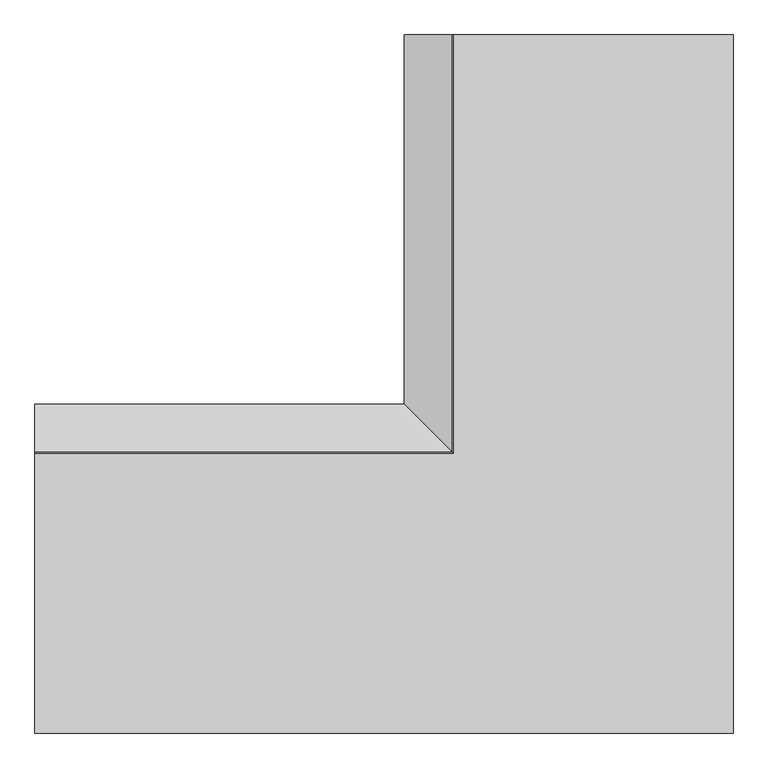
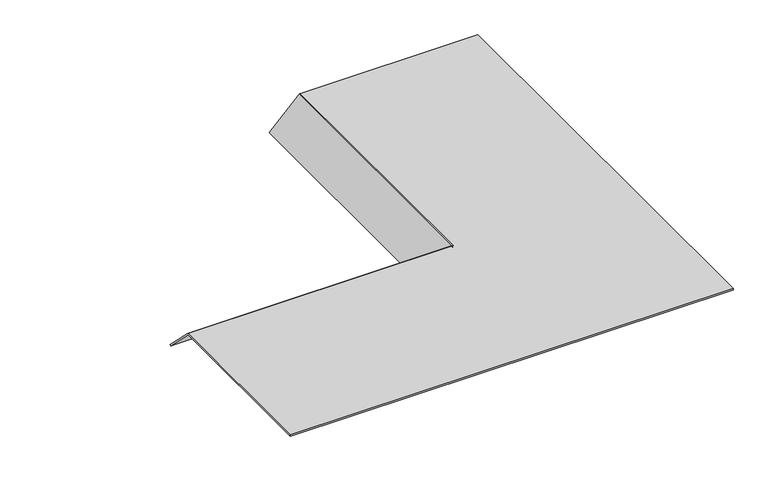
"""IFC4 building model written with IfcOpenShell, lengths in millimetres: cable carrier fitting geometry, Electrical_Installation_Hager_Inner-And-Outer-Corner : Electrical_Installation_Hager_Inner-And-Outer-Corner."""

from ifc_helpers import new_model, si_unit, frame, origin, place, context, project, spatial, polyline, circle_curve, ellipse_curve, outline, extrude, source, transform, mapped, element, save
from ifc_brep_helpers import plane_surface, cylinder_surface, revolved_surface, advanced_brep


def cable_carrier_fitting_379b033f(model_context):
    return source(origin(), model_context, "Body", "SolidModel", [
        extrude(outline(polyline([(-196.5, 246.5), (-193.5, 246.5), (-193.5, 193.5), (-246.5, 193.5), (-246.5, 196.5), (-196.5, 196.5), (-196.5, 246.5)])), frame((0.0, 0.0, 13.5), z_axis=(0.0, 0.0, 1.0), x_axis=(1.0, 0.0, 0.0)), (0.0, 0.0, 1.0), 10.0),
        advanced_brep(
        [(-800.0, -200.0, 40.5), (-800.0, 200.0110025, 40.5), (-800.0, 202.8206472, 39.336207), (-800.0, 270.8355339, -28.6786797), (-800.0, 268.7142136, -30.8), (-800.0, 200.8322972, 37.0819164), (-800.0, 199.8229541, 37.5), (-800.0, -200.0, 37.5), (200.0, 800.0, 40.5), (200.0, 800.0, 37.5), (-199.8229541, 800.0, 37.5), (-200.8322972, 800.0, 37.0819164), (-268.7142136, 800.0, -30.8), (-270.8355339, 800.0, -28.6786797), (-202.8206472, 800.0, 39.336207), (-200.0110025, 800.0, 40.5), (-270.8355339, 270.8355339, -28.6786797), (-268.7142136, 268.7142136, -30.8), (-200.8322972, 200.8322972, 37.0819164), (-202.8206472, 202.8206472, 39.336207), (200.0, -200.0, 37.5), (200.0, -200.0, 40.5), (-200.0110025, 200.0110025, 40.5), (-199.8229541, 199.8229541, 37.5)],
        [
            (0, 1),
            (1, 2, circle_curve(frame((-800.0, 200.0110025, 36.5265623), z_axis=(-1.0, 0.0, 0.0), x_axis=(0.0, 1.0, 0.0)), 3.9734377)),
            (2, 3),
            (3, 4),
            (4, 5),
            (5, 6, circle_curve(frame((-800.0, 199.8229541, 36.0725733), z_axis=(1.0, 0.0, 0.0), x_axis=(0.0, 1.0, 0.0)), 1.4274267)),
            (6, 7),
            (7, 0),
            (8, 9),
            (9, 10),
            (10, 11, circle_curve(frame((-199.8229541, 800.0, 36.0725733), z_axis=(0.0, -1.0, 0.0), x_axis=(-1.0, 0.0, 0.0)), 1.4274267)),
            (11, 12),
            (12, 13),
            (13, 14),
            (14, 15, circle_curve(frame((-200.0110025, 800.0, 36.5265623), z_axis=(0.0, 1.0, 0.0), x_axis=(-1.0, 0.0, 0.0)), 3.9734377)),
            (15, 8),
            (3, 16),
            (16, 17),
            (17, 4),
            (17, 18),
            (18, 5),
            (2, 19),
            (19, 16),
            (7, 20),
            (20, 21),
            (21, 0),
            (16, 13),
            (12, 17),
            (11, 18),
            (19, 14),
            (20, 9),
            (8, 21),
            (15, 22),
            (22, 1),
            (22, 19, ellipse_curve(frame((-200.0110025, 200.0110025, 36.5265623), z_axis=(-0.7071067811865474, -0.7071067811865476, 0.0), x_axis=(-0.7071067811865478, 0.7071067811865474, 0.0)), 5.6192895, 3.9734377)),
            (18, 23, ellipse_curve(frame((-199.8229541, 199.8229541, 36.0725733), z_axis=(0.7071067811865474, 0.7071067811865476, 0.0), x_axis=(0.7071067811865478, -0.7071067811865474, 0.0)), 2.0186862, 1.4274267)),
            (23, 6),
            (23, 10),
        ],
        [
            plane_surface(frame((-800.0, 0.0, 0.0), z_axis=(-1.0, 0.0, 0.0), x_axis=(0.0, 0.0, 1.0))),
            plane_surface(frame((0.0, 800.0, 0.0), z_axis=(0.0, 1.0, 0.0), x_axis=(0.0, 0.0, 1.0))),
            plane_surface(frame((-800.0, 270.8355339, -28.6786797), z_axis=(0.0, 0.7071067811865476, -0.7071067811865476), x_axis=(1.0, 0.0, 0.0))),
            plane_surface(frame((-800.0, 268.7142136, -30.8), z_axis=(0.0, -0.7071067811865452, -0.7071067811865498), x_axis=(1.0, 0.0, 0.0))),
            plane_surface(frame((-800.0, 202.8206472, 39.336207), z_axis=(0.0, 0.7071067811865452, 0.7071067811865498), x_axis=(1.0, 0.0, 0.0))),
            plane_surface(frame((-800.0, -200.0, 37.5), z_axis=(0.0, -1.0, 0.0), x_axis=(1.0, 0.0, 0.0))),
            plane_surface(frame((-270.8355339, 270.8355339, -28.6786797), z_axis=(-0.7071067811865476, 0.0, -0.7071067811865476), x_axis=(0.0, 1.0, 0.0))),
            plane_surface(frame((-268.7142136, 268.7142136, -30.8), z_axis=(0.7071067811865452, 0.0, -0.7071067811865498), x_axis=(0.0, 1.0, 0.0))),
            plane_surface(frame((-202.8206472, 202.8206472, 39.336207), z_axis=(-0.7071067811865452, 0.0, 0.7071067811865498), x_axis=(0.0, 1.0, 0.0))),
            plane_surface(frame((200.0, -200.0, 37.5), z_axis=(1.0, 0.0, 0.0), x_axis=(0.0, 1.0, 0.0))),
            plane_surface(frame((-800.0, -200.0, 40.5), z_axis=(0.0, 0.0, 1.0), x_axis=(1.0, 0.0, 0.0))),
            cylinder_surface(frame((-800.0, 200.0110025, 36.5265623), z_axis=(-1.0, 0.0, 0.0), x_axis=(0.0, 1.0, 0.0)), 3.9734377),
            revolved_surface(polyline([(-198.39552739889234, 201.25038080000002, 36.0725733), (-800.0, 201.25038080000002, 36.0725733)]), (-800.0, 199.8229541, 36.0725733), (1.0, 0.0, 0.0)),
            plane_surface(frame((-800.0, 199.8229541, 37.5), z_axis=(0.0, 0.0, -1.0), x_axis=(1.0, 0.0, 0.0))),
            cylinder_surface(frame((-200.0110025, 0.0, 36.5265623), z_axis=(0.0, -1.0, 0.0), x_axis=(-1.0, 0.0, 0.0)), 3.9734377),
            revolved_surface(polyline([(-201.25038080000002, 800.0, 36.0725733), (-201.25038080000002, 198.3955273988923, 36.0725733)]), (-199.8229541, 0.0, 36.0725733), (0.0, 1.0, 0.0)),
        ],
        [
            (0, [[1, 2, 3, 4, 5, 6, 7, 8]]),
            (1, [[9, 10, 11, 12, 13, 14, 15, 16]]),
            (2, [[-4, 17, 18, 19]]),
            (3, [[-5, -19, 20, 21]]),
            (4, [[-3, 22, 23, -17]]),
            (5, [[-8, 24, 25, 26]]),
            (6, [[-18, 27, -13, 28]]),
            (7, [[-20, -28, -12, 29]]),
            (8, [[-23, 30, -14, -27]]),
            (9, [[-25, 31, -9, 32]]),
            (10, [[-1, -26, -32, -16, 33, 34]]),
            (11, [[-2, -34, 35, -22]]),
            (12, [[-6, -21, 36, 37]]),
            (13, [[-7, -37, 38, -10, -31, -24]]),
            (14, [[-35, -33, -15, -30]]),
            (15, [[-36, -29, -11, -38]]),
        ],
    ),
    ])


if __name__ == "__main__":
    model = new_model("IFC4")
    model_context = context("Model", 3, world=origin())
    ifc_project = project(units=[si_unit("LENGTHUNIT", "METRE", prefix="MILLI")], contexts=[model_context])
    site = spatial("IfcSite", under=ifc_project)
    building = spatial("IfcBuilding", under=site)
    placement = place(None, origin())
    cable_carrier_fitting_shape = cable_carrier_fitting_379b033f(model_context)
    element("IfcCableCarrierFitting", 1, ObjectType="Electrical_Installation_Hager_Inner-And-Outer-Corner : Electrical_Installation_Hager_Inner-And-Outer-Corner", at=placement, inside=building, context=model_context, shape_type="MappedRepresentation", body=[
        mapped(cable_carrier_fitting_shape, transform((0.0, 0.0, 0.0), x_axis=(1.0, 0.0, 0.0), y_axis=(0.0, 1.0, 0.0), z_axis=(0.0, 0.0, 1.0))),
    ])
    save(model, "model.ifc")
